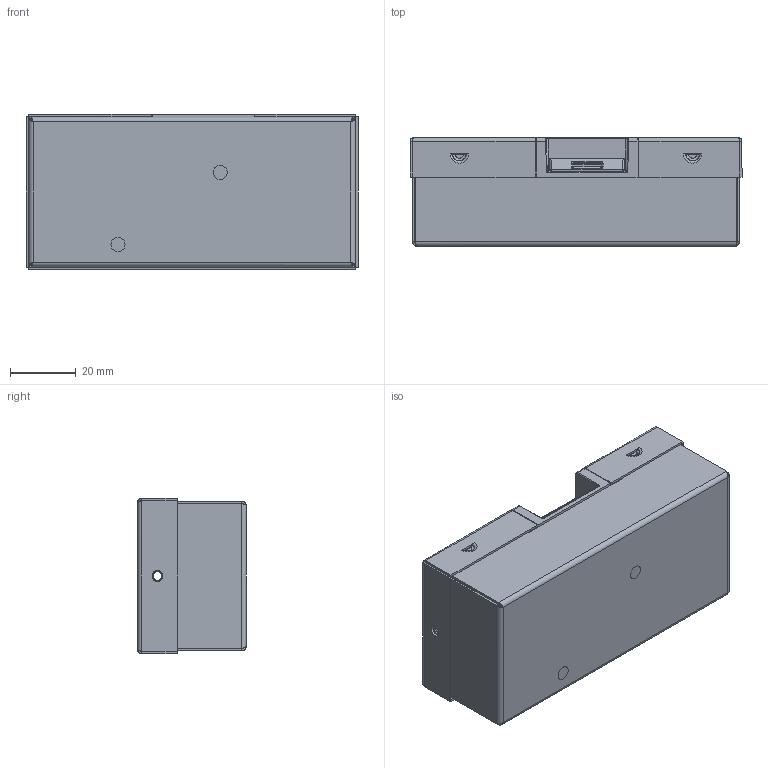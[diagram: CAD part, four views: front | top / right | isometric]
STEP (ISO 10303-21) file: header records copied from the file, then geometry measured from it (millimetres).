
FILE_DESCRIPTION (( 'STEP AP214' ), '1' );
FILE_NAME ('1145 BF.STEP', '2016-08-18T13:51:38', ( 'Engineering6' ), ( 'Windows User' ), 'SwSTEP 2.0', 'SolidWorks 2015', '' );
FILE_SCHEMA (( 'AUTOMOTIVE_DESIGN' ));
Length unit declared in the file: millimetre
Products named in the file (6): 1145 BF; ILOC-303; ILOC-200; ILOC-201; ILOC-302; ILOC-301
Assembly tree (5 placements, depth 3):
  1145 BF
    ILOC-301
    ILOC-302
    ILOC-200
      ILOC-201
    ILOC-303
Bounding box: 101 x 33 x 47.2 mm (x, y, z)
Volume: 15571.3 mm3; surface area: 44729.9 mm2
Topology: 6 solids, 6 shells, 763 faces, 1806 edges, 1049 vertices
Faces by surface type: plane 278, cylinder 266, bspline 148, sphere 42, torus 20, cone 9
Full cylindrical faces by diameter (mm): 2.7 x2, 3.3 x2, 4.1 x2, 4.3 x4, 12.6 x1
Entity records: 24432 total; most frequent: CARTESIAN_POINT 8236, ORIENTED_EDGE 3562, DIRECTION 3011, EDGE_CURVE 1781, VERTEX_POINT 1044, AXIS2_PLACEMENT_3D 1038, VECTOR 935, LINE 935
